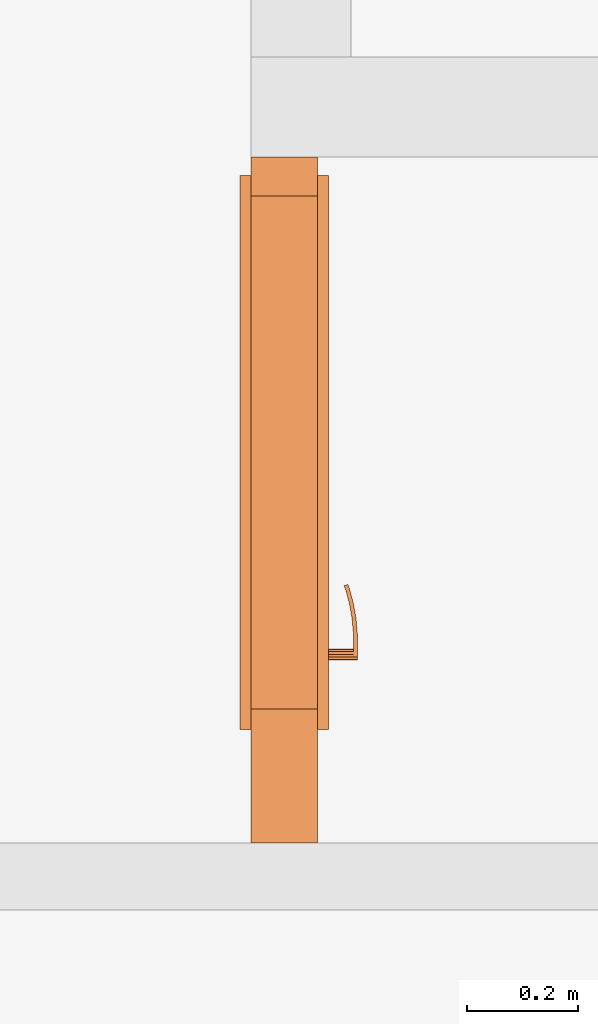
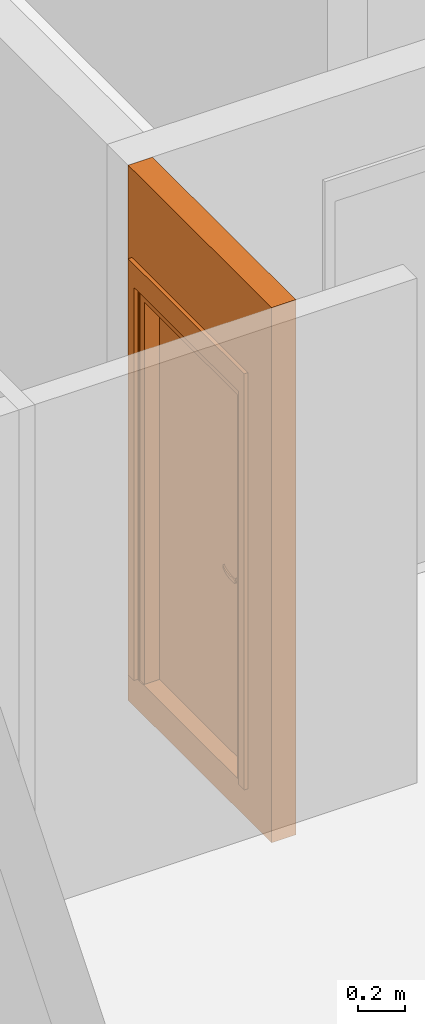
# One storey, part 27 of 67: 2 proxies, 1 opening.
"""IFC2X3 building model written with IfcOpenShell, lengths in millimetres."""

from ifc_helpers import new_model, entity, si_unit, converted_unit, derived_unit, money_unit, direction, frame, origin_with_axes, origin_2d_with_axis, place, context, subcontext, project, spatial, rectangle, extrude, open_shell, faceted_brep, surface_model, source, transform, mapped, material, type_object, element, fill, save


model = new_model("IFC2X3")

# Units and contexts
model_context = context("Model", 3, precision=0.01, world=origin_with_axes(), true_north=direction((0.34421633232, 0.938890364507)))
body_context = subcontext(model_context, "Body", "Model", "MODEL_VIEW")
ifc_project = project(units=[si_unit("LENGTHUNIT", "METRE", prefix="MILLI"), si_unit("AREAUNIT", "SQUARE_METRE"), si_unit("VOLUMEUNIT", "CUBIC_METRE"), converted_unit("PLANEANGLEUNIT", "DEGREE", entity("IfcPlaneAngleMeasure", 0.0174532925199), si_unit("PLANEANGLEUNIT", "RADIAN"), dimensions=[0, 0, 0, 0, 0, 0, 0]), si_unit("SOLIDANGLEUNIT", "STERADIAN"), money_unit("USD"), converted_unit("TIMEUNIT", "Year", entity("IfcTimeMeasure", 31556926.0), si_unit("TIMEUNIT", "SECOND"), dimensions=[0, 0, 1, 0, 0, 0, 0]), si_unit("MASSUNIT", "GRAM", prefix="KILO"), si_unit("THERMODYNAMICTEMPERATUREUNIT", "DEGREE_CELSIUS"), si_unit("LUMINOUSINTENSITYUNIT", "LUMEN"), si_unit("ENERGYUNIT", "JOULE", prefix="MEGA"), derived_unit("THERMALCONDUCTANCEUNIT", [(si_unit("POWERUNIT", "WATT"), 1), (si_unit("LENGTHUNIT", "METRE"), -1), (si_unit("THERMODYNAMICTEMPERATUREUNIT", "KELVIN"), -1)]), derived_unit("SPECIFICHEATCAPACITYUNIT", [(si_unit("ENERGYUNIT", "JOULE"), 1), (si_unit("MASSUNIT", "GRAM", prefix="KILO"), -1), (si_unit("THERMODYNAMICTEMPERATUREUNIT", "KELVIN"), -1)]), derived_unit("MASSDENSITYUNIT", [(si_unit("MASSUNIT", "GRAM", prefix="KILO"), 1), (si_unit("VOLUMEUNIT", "CUBIC_METRE"), -1)])], contexts=[model_context])

# Site, building, storey
site_placement = place(None, origin_with_axes())
site = spatial("IfcSite", under=ifc_project, at=site_placement, Name="USTRONIE MORSKIE", CompositionType="ELEMENT")
building_placement = place(site_placement, origin_with_axes())
building = spatial("IfcBuilding", under=site, at=building_placement, Name="Budynek", CompositionType="ELEMENT")
storey_placement = place(building_placement, frame((0.0, 0.0, 4000.0), z_axis=(0.0, 0.0, 1.0), x_axis=(1.0, 0.0, 0.0)))
storey = spatial("IfcBuildingStorey", under=building, at=storey_placement, Name="PIĘTRO 1", CompositionType="ELEMENT", Elevation=4000.0)

# Proxies, opening
ifc_material = material(Name="Bloczki silikatowe")
building_element_proxy_type_1 = type_object("IfcBuildingElementProxyType", Name="Bloczki silikatowe 120", PredefinedType="NOTDEFINED")
proxy_1_placement = place(storey_placement, frame((387497.920919, 726446.199036, -160.0), z_axis=(0.0, 0.0, 1.0), x_axis=(0.0, 1.0, 0.0)))
proxy_1 = element("IfcBuildingElementProxy", 1, at=proxy_1_placement, inside=storey, type_object=building_element_proxy_type_1, material=ifc_material, Name="SW-04", context=body_context, shape_type="Brep", body=[
    faceted_brep([(1290.0, 60.0, 0.0), (1290.0, -60.0, 0.0), (59.9999999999, -60.0, 0.0), (59.9999999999, 60.0, 0.0), (1290.0, 60.0, 2800.0), (1290.0, -60.0, 2800.0), (59.9999999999, -60.0, 2800.0), (59.9999999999, 60.0, 2800.0)], [[[0, 1, 2, 3]], [[1, 0, 4, 5]], [[1, 5, 6, 2]], [[7, 3, 2, 6]], [[4, 0, 3, 7]], [[5, 4, 7, 6]]]),
])
opening_placement = place(proxy_1_placement, frame((760.0, 0.0, 160.0), z_axis=(0.0, 0.0, 1.0), x_axis=(1.0, 0.0, 0.0)))
opening = element("IfcOpeningElement", 2, at=opening_placement, cuts=proxy_1, Name="Dw.4", context=body_context, shape_type="SweptSolid", body=[
    extrude(rectangle(XDim=920.0, YDim=2070.0, at=origin_2d_with_axis()), frame((0.0, 120.0, 1035.0), z_axis=(0.0, 1.0, 0.0), x_axis=(1.0, 0.0, 0.0)), (0.0, 0.0, -1.0), 360.0),
    extrude(rectangle(XDim=994.0, YDim=2177.0, at=origin_2d_with_axis()), frame((0.0, 60.0, 1088.5), z_axis=(0.0, 1.0, 0.0), x_axis=(1.0, 0.0, 0.0)), (0.0, 0.0, 1.0), 120.0),
    extrude(rectangle(XDim=994.0, YDim=2177.0, at=origin_2d_with_axis()), frame((0.0, -60.0, 1088.5), z_axis=(0.0, -1.0, 0.0), x_axis=(1.0, 0.0, 0.0)), (0.0, 0.0, 1.0), 120.0),
])
building_element_proxy_type_2 = type_object("IfcBuildingElementProxyType", Name="Drzwi 23", PredefinedType="NOTDEFINED")
shared_shape = source(origin_with_axes(), body_context, "Body", "SurfaceModel", [
    faceted_brep([(460.0, -115.0, 0.0), (460.0, -120.0, 0.0), (435.0, -120.0, 0.0), (435.0, -115.0, 0.0), (460.0, -115.0, 2070.0), (460.0, -120.0, 2070.0), (435.0, -120.0, 2045.0), (435.0, -115.0, 2045.0)], [[[0, 1, 2, 3]], [[4, 5, 1, 0]], [[1, 5, 6, 2]], [[3, 2, 6, 7]], [[0, 3, 7, 4]], [[7, 6, 5, 4]]]),
    faceted_brep([(-460.0, -115.0, 2070.0), (-460.0, -120.0, 2070.0), (-435.0, -120.0, 2045.0), (-435.0, -115.0, 2045.0), (-460.0, -115.0, 0.0), (-460.0, -120.0, 0.0), (-435.0, -120.0, 0.0), (-435.0, -115.0, 0.0)], [[[0, 1, 2, 3]], [[4, 5, 1, 0]], [[1, 5, 6, 2]], [[3, 2, 6, 7]], [[0, 3, 7, 4]], [[7, 6, 5, 4]]]),
    faceted_brep([(435.0, -115.0, 2045.0), (435.0, -120.0, 2045.0), (-435.0, -120.0, 2045.0), (-435.0, -115.0, 2045.0), (460.0, -115.0, 2070.0), (460.0, -120.0, 2070.0), (-460.0, -120.0, 2070.0), (-460.0, -115.0, 2070.0)], [[[0, 1, 2, 3]], [[4, 5, 1, 0]], [[1, 5, 6, 2]], [[3, 2, 6, 7]], [[0, 3, 7, 4]], [[7, 6, 5, 4]]]),
    faceted_brep([(497.0, -139.0, 0.0), (447.0, -139.0, 0.0), (447.0, -120.0, 0.0), (497.0, -120.0, 0.0), (497.0, -139.0, 2177.0), (447.0, -139.0, 2057.0), (447.0, -120.0, 2057.0), (497.0, -120.0, 2177.0)], [[[0, 1, 2, 3]], [[0, 4, 5, 1]], [[1, 5, 6, 2]], [[3, 2, 6, 7]], [[4, 0, 3, 7]], [[5, 4, 7, 6]]]),
    faceted_brep([(-497.0, -139.0, 2177.0), (-447.0, -139.0, 2057.0), (-447.0, -120.0, 2057.0), (-497.0, -120.0, 2177.0), (-497.0, -139.0, 0.0), (-447.0, -139.0, 0.0), (-447.0, -120.0, 0.0), (-497.0, -120.0, 0.0)], [[[0, 1, 2, 3]], [[0, 4, 5, 1]], [[1, 5, 6, 2]], [[3, 2, 6, 7]], [[4, 0, 3, 7]], [[5, 4, 7, 6]]]),
    faceted_brep([(497.0, -139.0, 2177.0), (447.0, -139.0, 2057.0), (447.0, -120.0, 2057.0), (497.0, -120.0, 2177.0), (-497.0, -139.0, 2177.0), (-447.0, -139.0, 2057.0), (-447.0, -120.0, 2057.0), (-497.0, -120.0, 2177.0)], [[[0, 1, 2, 3]], [[0, 4, 5, 1]], [[1, 5, 6, 2]], [[3, 2, 6, 7]], [[4, 0, 3, 7]], [[5, 4, 7, 6]]]),
    faceted_brep([(497.0, 19.0, 0.0), (497.0, 0.0, 0.0), (447.0, 0.0, 0.0), (447.0, 19.0, 0.0), (497.0, 19.0, 2177.0), (497.0, 0.0, 2177.0), (447.0, 0.0, 2057.0), (447.0, 19.0, 2057.0)], [[[0, 1, 2, 3]], [[4, 5, 1, 0]], [[1, 5, 6, 2]], [[3, 2, 6, 7]], [[0, 3, 7, 4]], [[7, 6, 5, 4]]]),
    faceted_brep([(-497.0, 19.0, 2177.0), (-497.0, 0.0, 2177.0), (-447.0, 0.0, 2057.0), (-447.0, 19.0, 2057.0), (-497.0, 19.0, 0.0), (-497.0, 0.0, 0.0), (-447.0, 0.0, 0.0), (-447.0, 19.0, 0.0)], [[[0, 1, 2, 3]], [[4, 5, 1, 0]], [[1, 5, 6, 2]], [[3, 2, 6, 7]], [[0, 3, 7, 4]], [[7, 6, 5, 4]]]),
    faceted_brep([(497.0, 19.0, 2177.0), (497.0, 0.0, 2177.0), (447.0, 0.0, 2057.0), (447.0, 19.0, 2057.0), (-497.0, 19.0, 2177.0), (-497.0, 0.0, 2177.0), (-447.0, 0.0, 2057.0), (-447.0, 19.0, 2057.0)], [[[0, 1, 2, 3]], [[4, 5, 1, 0]], [[1, 5, 6, 2]], [[3, 2, 6, 7]], [[0, 3, 7, 4]], [[7, 6, 5, 4]]]),
    faceted_brep([(400.0, -40.0, 0.0), (400.0, -115.0, 0.0), (400.0, -115.0, 2000.0), (400.0, -40.0, 2000.0), (412.0, -40.0, 0.0), (412.0, 0.0, 0.0), (460.0, 0.0, 0.0), (460.0, -115.0, 0.0), (460.0, -115.0, 2000.0), (412.0, -40.0, 2000.0), (460.0, 0.0, 2000.0), (412.0, 0.0, 2000.0)], [[[0, 1, 2, 3]], [[4, 5, 6, 7, 1, 0]], [[1, 7, 8, 2]], [[9, 3, 2, 8, 10, 11]], [[9, 4, 0, 3]], [[11, 5, 4, 9]], [[11, 10, 6, 5]], [[6, 10, 8, 7]]]),
    faceted_brep([(-412.0, -40.0, 2000.0), (-412.0, 0.0, 2000.0), (-460.0, 0.0, 2000.0), (-460.0, -115.0, 2000.0), (-400.0, -115.0, 2000.0), (-400.0, -40.0, 2000.0), (-412.0, -40.0, 0.0), (-412.0, 0.0, 0.0), (-460.0, 0.0, 0.0), (-460.0, -115.0, 0.0), (-400.0, -115.0, 0.0), (-400.0, -40.0, 0.0)], [[[0, 1, 2, 3, 4, 5]], [[0, 6, 7, 1]], [[7, 8, 2, 1]], [[2, 8, 9, 3]], [[3, 9, 10, 4]], [[5, 4, 10, 11]], [[5, 11, 6, 0]], [[6, 11, 10, 9, 8, 7]]]),
    faceted_brep([(412.0, 0.0, 2012.0), (-412.0, 0.0, 2012.0), (-412.0, 0.0, 2000.0), (-460.0, 0.0, 2000.0), (-460.0, 0.0, 2070.0), (460.0, 0.0, 2070.0), (460.0, 0.0, 2000.0), (412.0, 0.0, 2000.0), (412.0, -40.0, 2012.0), (-412.0, -40.0, 2012.0), (-412.0, -40.0, 2000.0), (-400.0, -40.0, 2000.0), (-400.0, -115.0, 2000.0), (-460.0, -115.0, 2000.0), (-460.0, -115.0, 2070.0), (460.0, -115.0, 2070.0), (460.0, -115.0, 2000.0), (412.0, -40.0, 2000.0), (400.0, -115.0, 2000.0), (400.0, -40.0, 2000.0)], [[[0, 1, 2, 3, 4, 5, 6, 7]], [[0, 8, 9, 1]], [[1, 9, 10, 2]], [[10, 11, 12, 13, 3, 2]], [[4, 3, 13, 14]], [[5, 4, 14, 15]], [[6, 5, 15, 16]], [[17, 7, 6, 16, 18, 19]], [[7, 17, 8, 0]], [[10, 9, 8, 17, 19, 11]], [[19, 18, 12, 11]], [[12, 18, 16, 15, 14, 13]]]),
    faceted_brep([(390.5, -40.0, 1060.0), (333.5, -40.0, 1060.0), (333.5, -43.0, 1060.0), (390.5, -43.0, 1060.0), (390.5, -40.0, 870.0), (333.5, -40.0, 870.0), (333.5, -43.0, 870.0), (390.5, -43.0, 870.0)], [[[0, 1, 2, 3]], [[0, 4, 5, 1]], [[1, 5, 6, 2]], [[3, 2, 6, 7]], [[4, 0, 3, 7]], [[5, 4, 7, 6]]]),
    faceted_brep([(362.0, -104.0, 990.0), (367.0, -104.0, 991.339745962), (367.0, -111.0, 991.339745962), (362.0, -111.0, 990.0), (337.0, -104.0, 990.0), (337.0, -104.0, 1010.0), (362.0, -104.0, 1010.0), (367.0, -104.0, 1008.66025404), (370.660254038, -104.0, 1005.0), (372.0, -104.0, 1000.0), (370.660254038, -104.0, 995.0), (370.660254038, -111.0, 995.0), (372.0, -111.0, 1000.0), (370.660254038, -111.0, 1005.0), (367.0, -111.0, 1008.66025404), (362.0, -111.0, 1010.0), (337.0, -111.0, 1010.0), (337.0, -111.0, 990.0)], [[[0, 1, 2, 3]], [[0, 4, 5, 6, 7, 8, 9, 10, 1]], [[1, 10, 11, 2]], [[3, 2, 11, 12, 13, 14, 15, 16, 17]], [[4, 0, 3, 17]], [[5, 4, 17, 16]], [[6, 5, 16, 15]], [[7, 6, 15, 14]], [[8, 7, 14, 13]], [[9, 8, 13, 12]], [[10, 9, 12, 11]]]),
    surface_model("IfcShellBasedSurfaceModel", [(337.0, -104.0, 1010.0), (323.901717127, -104.0, 1009.60730092), (323.596090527, -111.0, 1009.60730092), (337.0, -104.0, 990.0), (323.901717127, -104.0, 990.392699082), (296.890283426, -108.663544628, 1008.82190275), (337.0, -111.0, 1010.0), (337.0, -111.0, 990.0), (297.804837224, -101.716818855, 991.178097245), (297.804837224, -101.716818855, 1008.82190275), (296.890283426, -108.663544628, 991.178097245), (323.596090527, -111.0, 990.392699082), (272.006256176, -97.1678329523, 991.963495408), (272.006256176, -97.1678329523, 1008.03650459), (270.489735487, -104.008415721, 1008.03650459), (270.489735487, -104.008415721, 991.963495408), (246.702316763, -90.3876628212, 992.748893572), (246.702316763, -90.3876628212, 1007.25110643), (244.59537082, -97.0700416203, 1007.25110643), (244.59537082, -97.0700416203, 992.748893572), (238.829442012, -87.5221707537, 993.0), (238.829442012, -87.5221707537, 1007.0), (236.538795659, -94.1376880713, 1007.0), (236.538795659, -94.1376880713, 993.0)], [open_shell([[[0, 1, 2]], [[0, 3, 4, 1]], [[1, 5, 2]], [[0, 2, 6]], [[4, 3, 7]], [[1, 4, 8, 9]], [[1, 9, 5]], [[2, 5, 10, 11]], [[6, 2, 11, 7]], [[4, 7, 11]], [[8, 4, 11]], [[9, 8, 12, 13]], [[9, 14, 5]], [[5, 14, 15, 10]], [[8, 11, 10]], [[12, 8, 10]], [[13, 12, 16, 17]], [[9, 13, 14]], [[14, 18, 19, 15]], [[12, 10, 15]], [[16, 12, 15]], [[17, 16, 20, 21]], [[13, 17, 18]], [[13, 18, 14]], [[18, 22, 23, 19]], [[16, 15, 19]], [[20, 16, 19]], [[21, 20, 23, 22]], [[17, 21, 22]], [[17, 22, 18]], [[20, 19, 23]]])]),
    faceted_brep([(351.607695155, -53.0, 994.0), (350.0, -53.0, 1000.0), (349.0, -43.0, 1000.0), (350.741669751, -43.0, 993.5), (356.0, -53.0, 989.607695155), (362.0, -53.0, 988.0), (368.0, -53.0, 989.607695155), (372.392304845, -53.0, 994.0), (374.0, -53.0, 1000.0), (372.392304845, -53.0, 1006.0), (368.0, -53.0, 1010.39230485), (362.0, -53.0, 1012.0), (356.0, -53.0, 1010.39230485), (351.607695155, -53.0, 1006.0), (350.741669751, -43.0, 1006.5), (355.5, -43.0, 1011.25833025), (362.0, -43.0, 1013.0), (368.5, -43.0, 1011.25833025), (373.258330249, -43.0, 1006.5), (375.0, -43.0, 1000.0), (373.258330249, -43.0, 993.5), (368.5, -43.0, 988.741669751), (362.0, -43.0, 987.0), (355.5, -43.0, 988.741669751)], [[[0, 1, 2, 3]], [[1, 0, 4, 5, 6, 7, 8, 9, 10, 11, 12, 13]], [[1, 13, 14, 2]], [[2, 14, 15, 16, 17, 18, 19, 20, 21, 22, 23, 3]], [[4, 0, 3, 23]], [[5, 4, 23, 22]], [[6, 5, 22, 21]], [[7, 6, 21, 20]], [[8, 7, 20, 19]], [[9, 8, 19, 18]], [[10, 9, 18, 17]], [[11, 10, 17, 16]], [[12, 11, 16, 15]], [[13, 12, 15, 14]]]),
    faceted_brep([(344.679491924, -47.0, 895.0), (342.0, -47.0, 905.0), (340.0, -43.0, 905.0), (342.947441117, -43.0, 894.0), (352.0, -47.0, 887.679491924), (362.0, -47.0, 885.0), (372.0, -47.0, 887.679491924), (379.320508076, -47.0, 895.0), (382.0, -47.0, 905.0), (379.320508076, -47.0, 915.0), (372.0, -47.0, 922.320508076), (362.0, -47.0, 925.0), (352.0, -47.0, 922.320508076), (344.679491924, -47.0, 915.0), (342.947441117, -43.0, 916.0), (351.0, -43.0, 924.052558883), (362.0, -43.0, 927.0), (373.0, -43.0, 924.052558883), (381.052558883, -43.0, 916.0), (384.0, -43.0, 905.0), (381.052558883, -43.0, 894.0), (373.0, -43.0, 885.947441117), (362.0, -43.0, 883.0), (351.0, -43.0, 885.947441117)], [[[0, 1, 2, 3]], [[1, 0, 4, 5, 6, 7, 8, 9, 10, 11, 12, 13]], [[1, 13, 14, 2]], [[2, 14, 15, 16, 17, 18, 19, 20, 21, 22, 23, 3]], [[4, 0, 3, 23]], [[5, 4, 23, 22]], [[6, 5, 22, 21]], [[7, 6, 21, 20]], [[8, 7, 20, 19]], [[9, 8, 19, 18]], [[10, 9, 18, 17]], [[11, 10, 17, 16]], [[12, 11, 16, 15]], [[13, 12, 15, 14]]]),
    faceted_brep([(357.050252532, -49.0, 909.050252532), (355.0, -49.0, 914.0), (354.0, -47.0, 914.0), (356.343145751, -47.0, 908.343145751), (362.0, -49.0, 907.0), (366.949747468, -49.0, 909.050252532), (369.0, -49.0, 914.0), (366.949747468, -49.0, 918.949747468), (362.0, -49.0, 921.0), (357.050252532, -49.0, 918.949747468), (356.343145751, -47.0, 919.656854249), (362.0, -47.0, 922.0), (367.656854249, -47.0, 919.656854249), (370.0, -47.0, 914.0), (367.656854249, -47.0, 908.343145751), (362.0, -47.0, 906.0)], [[[0, 1, 2, 3]], [[1, 0, 4, 5, 6, 7, 8, 9]], [[1, 9, 10, 2]], [[2, 10, 11, 12, 13, 14, 15, 3]], [[4, 0, 3, 15]], [[5, 4, 15, 14]], [[6, 5, 14, 13]], [[7, 6, 13, 12]], [[8, 7, 12, 11]], [[9, 8, 11, 10]]]),
    faceted_brep([(362.0, -53.0, 1010.0), (357.0, -53.0, 1008.66025404), (357.0, -104.0, 1008.66025404), (362.0, -104.0, 1010.0), (367.0, -53.0, 1008.66025404), (370.660254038, -53.0, 1005.0), (372.0, -53.0, 1000.0), (370.660254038, -53.0, 995.0), (367.0, -53.0, 991.339745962), (362.0, -53.0, 990.0), (357.0, -53.0, 991.339745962), (353.339745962, -53.0, 995.0), (352.0, -53.0, 1000.0), (353.339745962, -53.0, 1005.0), (353.339745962, -104.0, 1005.0), (352.0, -104.0, 1000.0), (353.339745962, -104.0, 995.0), (357.0, -104.0, 991.339745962), (362.0, -104.0, 990.0), (367.0, -104.0, 991.339745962), (370.660254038, -104.0, 995.0), (372.0, -104.0, 1000.0), (370.660254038, -104.0, 1005.0), (367.0, -104.0, 1008.66025404)], [[[0, 1, 2, 3]], [[0, 4, 5, 6, 7, 8, 9, 10, 11, 12, 13, 1]], [[1, 13, 14, 2]], [[3, 2, 14, 15, 16, 17, 18, 19, 20, 21, 22, 23]], [[4, 0, 3, 23]], [[5, 4, 23, 22]], [[6, 5, 22, 21]], [[7, 6, 21, 20]], [[8, 7, 20, 19]], [[9, 8, 19, 18]], [[10, 9, 18, 17]], [[11, 10, 17, 16]], [[12, 11, 16, 15]], [[13, 12, 15, 14]]]),
    faceted_brep([(390.5, 0.0, 1060.0), (390.5, 3.0, 1060.0), (333.5, 3.0, 1060.0), (333.5, 0.0, 1060.0), (390.5, 0.0, 870.0), (390.5, 3.0, 870.0), (333.5, 3.0, 870.0), (333.5, 0.0, 870.0)], [[[0, 1, 2, 3]], [[4, 5, 1, 0]], [[1, 5, 6, 2]], [[3, 2, 6, 7]], [[0, 3, 7, 4]], [[7, 6, 5, 4]]]),
    faceted_brep([(362.0, 64.0, 990.0), (362.0, 71.0, 990.0), (367.0, 71.0, 991.339745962), (367.0, 64.0, 991.339745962), (337.0, 64.0, 990.0), (337.0, 71.0, 990.0), (337.0, 71.0, 1010.0), (362.0, 71.0, 1010.0), (367.0, 71.0, 1008.66025404), (370.660254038, 71.0, 1005.0), (372.0, 71.0, 1000.0), (370.660254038, 71.0, 995.0), (370.660254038, 64.0, 995.0), (372.0, 64.0, 1000.0), (370.660254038, 64.0, 1005.0), (367.0, 64.0, 1008.66025404), (362.0, 64.0, 1010.0), (337.0, 64.0, 1010.0)], [[[0, 1, 2, 3]], [[4, 5, 1, 0]], [[1, 5, 6, 7, 8, 9, 10, 11, 2]], [[3, 2, 11, 12]], [[0, 3, 12, 13, 14, 15, 16, 17, 4]], [[17, 6, 5, 4]], [[16, 7, 6, 17]], [[15, 8, 7, 16]], [[14, 9, 8, 15]], [[13, 10, 9, 14]], [[12, 11, 10, 13]]]),
    surface_model("IfcShellBasedSurfaceModel", [(337.0, 64.0, 1010.0), (323.596090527, 71.0, 1009.60730092), (323.901717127, 64.0, 1009.60730092), (337.0, 71.0, 1010.0), (296.890283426, 68.6635446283, 1008.82190275), (323.901717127, 64.0, 990.392699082), (337.0, 64.0, 990.0), (337.0, 71.0, 990.0), (323.596090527, 71.0, 990.392699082), (296.890283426, 68.6635446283, 991.178097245), (297.804837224, 61.716818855, 1008.82190275), (297.804837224, 61.716818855, 991.178097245), (270.489735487, 64.0084157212, 991.963495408), (270.489735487, 64.0084157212, 1008.03650459), (272.006256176, 57.1678329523, 1008.03650459), (272.006256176, 57.1678329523, 991.963495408), (244.59537082, 57.0700416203, 992.748893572), (244.59537082, 57.0700416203, 1007.25110643), (246.702316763, 50.3876628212, 1007.25110643), (246.702316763, 50.3876628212, 992.748893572), (236.538795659, 54.1376880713, 993.0), (236.538795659, 54.1376880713, 1007.0), (238.829442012, 47.5221707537, 1007.0), (238.829442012, 47.5221707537, 993.0)], [open_shell([[[0, 1, 2]], [[0, 3, 1]], [[2, 1, 4]], [[0, 2, 5, 6]], [[3, 7, 8, 1]], [[1, 8, 9, 4]], [[2, 4, 10]], [[2, 10, 11, 5]], [[5, 7, 6]], [[5, 8, 7]], [[11, 9, 8]], [[4, 9, 12, 13]], [[10, 4, 13]], [[10, 14, 15, 11]], [[11, 8, 5]], [[15, 9, 11]], [[15, 12, 9]], [[13, 12, 16, 17]], [[10, 13, 14]], [[14, 18, 19, 15]], [[19, 12, 15]], [[19, 16, 12]], [[17, 16, 20, 21]], [[14, 13, 17]], [[14, 17, 18]], [[18, 22, 23, 19]], [[23, 16, 19]], [[23, 20, 16]], [[22, 21, 20, 23]], [[18, 17, 21]], [[18, 21, 22]]])]),
    faceted_brep([(351.607695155, 13.0, 994.0), (350.741669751, 3.0, 993.5), (349.0, 3.0, 1000.0), (350.0, 13.0, 1000.0), (356.0, 13.0, 989.607695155), (355.5, 3.0, 988.741669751), (362.0, 3.0, 987.0), (368.5, 3.0, 988.741669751), (373.258330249, 3.0, 993.5), (375.0, 3.0, 1000.0), (373.258330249, 3.0, 1006.5), (368.5, 3.0, 1011.25833025), (362.0, 3.0, 1013.0), (355.5, 3.0, 1011.25833025), (350.741669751, 3.0, 1006.5), (351.607695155, 13.0, 1006.0), (356.0, 13.0, 1010.39230485), (362.0, 13.0, 1012.0), (368.0, 13.0, 1010.39230485), (372.392304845, 13.0, 1006.0), (374.0, 13.0, 1000.0), (372.392304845, 13.0, 994.0), (368.0, 13.0, 989.607695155), (362.0, 13.0, 988.0)], [[[0, 1, 2, 3]], [[4, 5, 1, 0]], [[2, 1, 5, 6, 7, 8, 9, 10, 11, 12, 13, 14]], [[3, 2, 14, 15]], [[3, 15, 16, 17, 18, 19, 20, 21, 22, 23, 4, 0]], [[23, 6, 5, 4]], [[22, 7, 6, 23]], [[21, 8, 7, 22]], [[20, 9, 8, 21]], [[19, 10, 9, 20]], [[18, 11, 10, 19]], [[17, 12, 11, 18]], [[16, 13, 12, 17]], [[15, 14, 13, 16]]]),
    faceted_brep([(344.679491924, 7.0, 895.0), (342.947441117, 3.0, 894.0), (340.0, 3.0, 905.0), (342.0, 7.0, 905.0), (352.0, 7.0, 887.679491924), (351.0, 3.0, 885.947441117), (362.0, 3.0, 883.0), (373.0, 3.0, 885.947441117), (381.052558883, 3.0, 894.0), (384.0, 3.0, 905.0), (381.052558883, 3.0, 916.0), (373.0, 3.0, 924.052558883), (362.0, 3.0, 927.0), (351.0, 3.0, 924.052558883), (342.947441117, 3.0, 916.0), (344.679491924, 7.0, 915.0), (352.0, 7.0, 922.320508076), (362.0, 7.0, 925.0), (372.0, 7.0, 922.320508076), (379.320508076, 7.0, 915.0), (382.0, 7.0, 905.0), (379.320508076, 7.0, 895.0), (372.0, 7.0, 887.679491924), (362.0, 7.0, 885.0)], [[[0, 1, 2, 3]], [[4, 5, 1, 0]], [[2, 1, 5, 6, 7, 8, 9, 10, 11, 12, 13, 14]], [[3, 2, 14, 15]], [[3, 15, 16, 17, 18, 19, 20, 21, 22, 23, 4, 0]], [[23, 6, 5, 4]], [[22, 7, 6, 23]], [[21, 8, 7, 22]], [[20, 9, 8, 21]], [[19, 10, 9, 20]], [[18, 11, 10, 19]], [[17, 12, 11, 18]], [[16, 13, 12, 17]], [[15, 14, 13, 16]]]),
    faceted_brep([(357.050252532, 9.0, 909.050252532), (356.343145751, 7.0, 908.343145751), (354.0, 7.0, 914.0), (355.0, 9.0, 914.0), (362.0, 9.0, 907.0), (362.0, 7.0, 906.0), (367.656854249, 7.0, 908.343145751), (370.0, 7.0, 914.0), (367.656854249, 7.0, 919.656854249), (362.0, 7.0, 922.0), (356.343145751, 7.0, 919.656854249), (357.050252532, 9.0, 918.949747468), (362.0, 9.0, 921.0), (366.949747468, 9.0, 918.949747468), (369.0, 9.0, 914.0), (366.949747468, 9.0, 909.050252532)], [[[0, 1, 2, 3]], [[4, 5, 1, 0]], [[2, 1, 5, 6, 7, 8, 9, 10]], [[3, 2, 10, 11]], [[3, 11, 12, 13, 14, 15, 4, 0]], [[15, 6, 5, 4]], [[14, 7, 6, 15]], [[13, 8, 7, 14]], [[12, 9, 8, 13]], [[11, 10, 9, 12]]]),
    faceted_brep([(362.0, 13.0, 1010.0), (362.0, 64.0, 1010.0), (357.0, 64.0, 1008.66025404), (357.0, 13.0, 1008.66025404), (367.0, 13.0, 1008.66025404), (367.0, 64.0, 1008.66025404), (370.660254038, 64.0, 1005.0), (372.0, 64.0, 1000.0), (370.660254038, 64.0, 995.0), (367.0, 64.0, 991.339745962), (362.0, 64.0, 990.0), (357.0, 64.0, 991.339745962), (353.339745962, 64.0, 995.0), (352.0, 64.0, 1000.0), (353.339745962, 64.0, 1005.0), (353.339745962, 13.0, 1005.0), (352.0, 13.0, 1000.0), (353.339745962, 13.0, 995.0), (357.0, 13.0, 991.339745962), (362.0, 13.0, 990.0), (367.0, 13.0, 991.339745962), (370.660254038, 13.0, 995.0), (372.0, 13.0, 1000.0), (370.660254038, 13.0, 1005.0)], [[[0, 1, 2, 3]], [[4, 5, 1, 0]], [[1, 5, 6, 7, 8, 9, 10, 11, 12, 13, 14, 2]], [[3, 2, 14, 15]], [[0, 3, 15, 16, 17, 18, 19, 20, 21, 22, 23, 4]], [[23, 6, 5, 4]], [[22, 7, 6, 23]], [[21, 8, 7, 22]], [[20, 9, 8, 21]], [[19, 10, 9, 20]], [[18, 11, 10, 19]], [[17, 12, 11, 18]], [[16, 13, 12, 17]], [[15, 14, 13, 16]]]),
    faceted_brep([(-412.0, 0.0, 0.0), (412.0, 0.0, 0.0), (412.0, -40.0, 0.0), (-412.0, -40.0, 0.0), (-412.0, 0.0, 2012.0), (412.0, 0.0, 2012.0), (412.0, -40.0, 2012.0), (-412.0, -40.0, 2012.0)], [[[0, 1, 2, 3]], [[0, 4, 5, 1]], [[1, 5, 6, 2]], [[3, 2, 6, 7]], [[4, 0, 3, 7]], [[5, 4, 7, 6]]]),
])
proxy_2_placement = place(opening_placement, frame((400.0, 0.0, 0.0), z_axis=(0.0, 0.0, 1.0), x_axis=(-1.0, 0.0, 0.0)))
proxy_2 = element("IfcBuildingElementProxy", 3, at=proxy_2_placement, inside=storey, type_object=building_element_proxy_type_2, Name="Dw.4", context=body_context, shape_type="MappedRepresentation", body=[
    mapped(shared_shape, transform((400.0, 60.0, 0.0))),
])
fill(opening, proxy_2)

save(model, "model.ifc")
